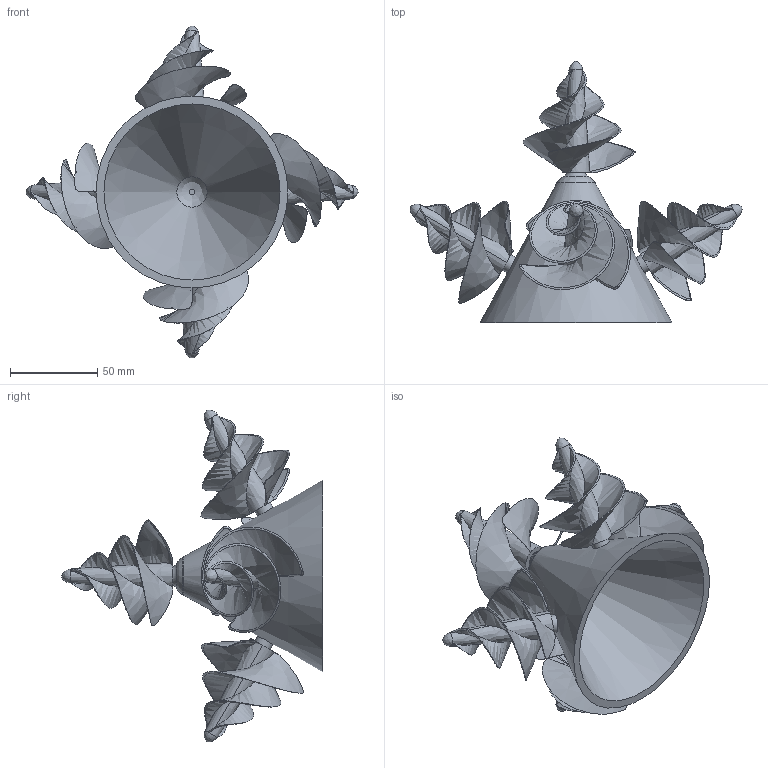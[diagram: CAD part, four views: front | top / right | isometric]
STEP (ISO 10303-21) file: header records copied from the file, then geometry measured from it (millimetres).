
FILE_DESCRIPTION(/* description */ (''),/* implementation_level */ '2;1');
FILE_NAME(/* name */ 'Assieme_albero_archimede.stp',/* time_stamp */ '2025-01-05T08:35:13+01:00',/* author */ ('R5800u'),/* organization */ (''),/* preprocessor_version */ 'ST-DEVELOPER v20',/* originating_system */ 'Autodesk Inventor 2025',/* authorisation */ '');
FILE_SCHEMA (('AUTOMOTIVE_DESIGN { 1 0 10303 214 3 1 1 }'));
Length unit declared in the file: millimetre
Products named in the file (3): Assieme_archimede2; cono; elica3_small_50%
Assembly tree (6 placements, depth 2):
  Assieme_archimede2
    elica3_small_50%  x5
    cono
Bounding box: 190.22 x 149.75 x 190.22 mm (x, y, z)
Volume: 125144.7 mm3; surface area: 107325.9 mm2
Topology: 6 solids, 6 shells, 157 faces, 416 edges, 275 vertices
Faces by surface type: bspline 82, cone 43, plane 17, cylinder 14, torus 1
Full cylindrical faces by diameter (mm): 4.8 x1, 4.85 x4, 5 x5, 10 x4
Entity records: 4479 total; most frequent: CARTESIAN_POINT 3261, ORIENTED_EDGE 244, DIRECTION 191, EDGE_CURVE 122, AXIS2_PLACEMENT_3D 86, VERTEX_POINT 83, EDGE_LOOP 63, B_SPLINE_CURVE_WITH_KNOTS 61
